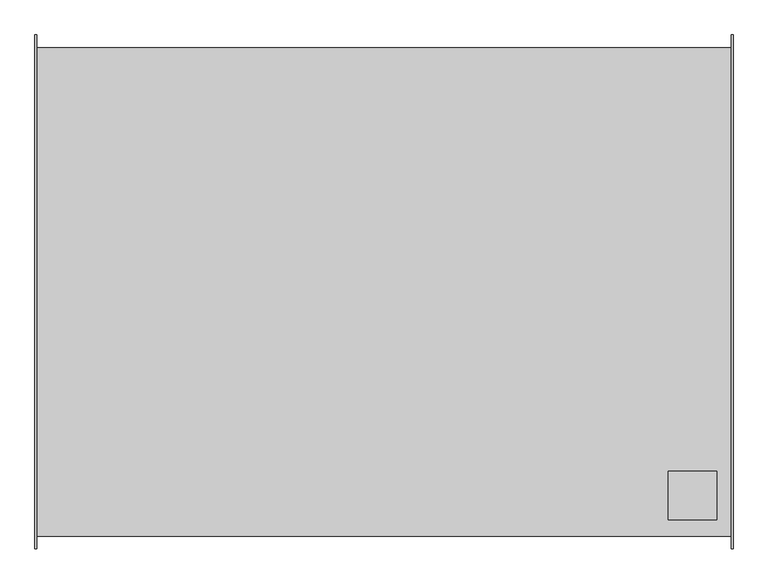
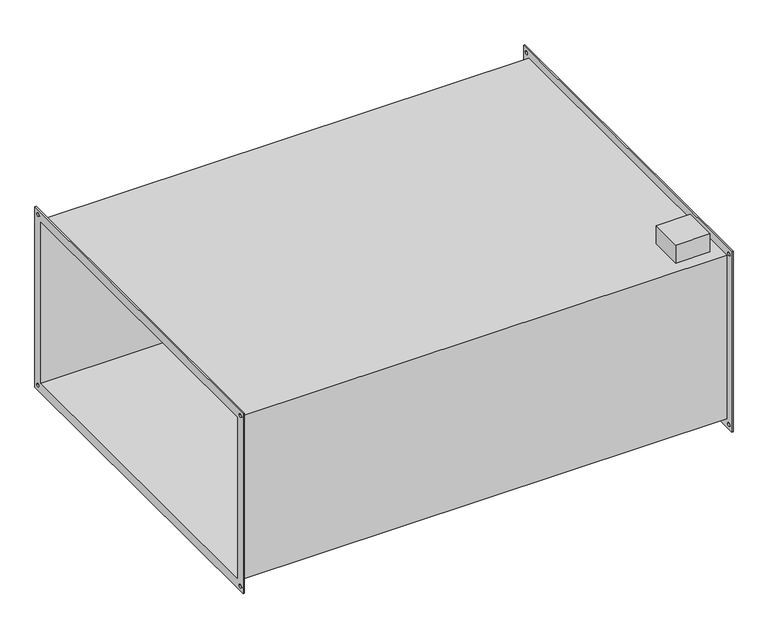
"""IFC4 building model written with IfcOpenShell, lengths in millimetres: proxy geometry."""

from ifc_helpers import new_model, si_unit, frame, origin, place, context, project, spatial, polyline, circle_curve, source, transform, mapped, element, save
from ifc_brep_helpers import plane_surface, revolved_surface, advanced_brep


def mechanical_equipment_2bd975a8(model_context):
    return source(origin(), model_context, "Body", "AdvancedBrep", [
        advanced_brep(
        [(716.0, -504.0, 254.0), (-716.0, -504.0, 254.0), (-716.0, -504.0, -254.0), (716.0, -504.0, -254.0), (-716.0, 504.0, -254.0), (716.0, 504.0, -254.0), (-716.0, 504.0, 254.0), (716.0, 504.0, 254.0), (586.0, -370.0, 254.0), (686.0, -370.0, 254.0), (686.0, -470.0, 254.0), (586.0, -470.0, 254.0), (686.0, -370.0, 310.0), (586.0, -370.0, 310.0), (586.0, -470.0, 310.0), (686.0, -470.0, 310.0), (-720.0, -530.0, 280.0), (-720.0, 530.0, 280.0), (-720.0, 530.0, -280.0), (-720.0, -530.0, -280.0), (-720.0, -500.0, 250.0), (-720.0, -500.0, -250.0), (-720.0, 500.0, -250.0), (-720.0, 500.0, 250.0), (-720.0, -520.0, 265.0), (-720.0, -510.0, 265.0), (-720.0, -520.0, -265.0), (-720.0, -510.0, -265.0), (-720.0, 510.0, -265.0), (-720.0, 520.0, -265.0), (-720.0, 510.0, 265.0), (-720.0, 520.0, 265.0), (-716.0, -530.0, 280.0), (-716.0, -530.0, -280.0), (-716.0, 530.0, -280.0), (-716.0, 530.0, 280.0), (-716.0, -510.0, 265.0), (-716.0, -520.0, 265.0), (-716.0, -510.0, -265.0), (-716.0, -520.0, -265.0), (-716.0, 520.0, -265.0), (-716.0, 510.0, -265.0), (-716.0, 520.0, 265.0), (-716.0, 510.0, 265.0), (716.0, 530.0, 280.0), (716.0, 530.0, -280.0), (716.0, -530.0, -280.0), (716.0, -530.0, 280.0), (716.0, -520.0, 265.0), (716.0, -510.0, 265.0), (716.0, -520.0, -265.0), (716.0, -510.0, -265.0), (716.0, 510.0, -265.0), (716.0, 520.0, -265.0), (716.0, 510.0, 265.0), (716.0, 520.0, 265.0), (720.0, 530.0, 280.0), (720.0, -530.0, 280.0), (720.0, -530.0, -280.0), (720.0, 530.0, -280.0), (720.0, 500.0, 250.0), (720.0, 500.0, -250.0), (720.0, -500.0, -250.0), (720.0, -500.0, 250.0), (720.0, -510.0, 265.0), (720.0, -520.0, 265.0), (720.0, -510.0, -265.0), (720.0, -520.0, -265.0), (720.0, 520.0, -265.0), (720.0, 510.0, -265.0), (720.0, 520.0, 265.0), (720.0, 510.0, 265.0)],
        [
            (0, 1),
            (1, 2),
            (2, 3),
            (3, 0),
            (2, 4),
            (4, 5),
            (5, 3),
            (4, 6),
            (6, 7),
            (7, 5),
            (0, 7),
            (6, 1),
            (8, 9),
            (9, 10),
            (10, 11),
            (11, 8),
            (12, 13),
            (13, 14),
            (14, 15),
            (15, 12),
            (12, 9),
            (8, 13),
            (11, 14),
            (10, 15),
            (16, 17),
            (17, 18),
            (18, 19),
            (19, 16),
            (20, 21),
            (21, 22),
            (22, 23),
            (23, 20),
            (24, 25, circle_curve(frame((-720.0, -515.0, 265.0), z_axis=(1.0, 0.0, 0.0), x_axis=(0.0, 1.0, 0.0)), 5.0)),
            (25, 24, circle_curve(frame((-720.0, -515.0, 265.0), z_axis=(1.0, 0.0, 0.0), x_axis=(0.0, 1.0, 0.0)), 5.0)),
            (26, 27, circle_curve(frame((-720.0, -515.0, -265.0), z_axis=(1.0, 0.0, 0.0), x_axis=(0.0, 1.0, 0.0)), 5.0)),
            (27, 26, circle_curve(frame((-720.0, -515.0, -265.0), z_axis=(1.0, 0.0, 0.0), x_axis=(0.0, 1.0, 0.0)), 5.0)),
            (28, 29, circle_curve(frame((-720.0, 515.0, -265.0), z_axis=(1.0, 0.0, 0.0), x_axis=(0.0, 1.0, 0.0)), 5.0)),
            (29, 28, circle_curve(frame((-720.0, 515.0, -265.0), z_axis=(1.0, 0.0, 0.0), x_axis=(0.0, 1.0, 0.0)), 5.0)),
            (30, 31, circle_curve(frame((-720.0, 515.0, 265.0), z_axis=(1.0, 0.0, 0.0), x_axis=(0.0, 1.0, 0.0)), 5.0)),
            (31, 30, circle_curve(frame((-720.0, 515.0, 265.0), z_axis=(1.0, 0.0, 0.0), x_axis=(0.0, 1.0, 0.0)), 5.0)),
            (32, 33),
            (33, 34),
            (34, 35),
            (35, 32),
            (36, 37, circle_curve(frame((-716.0, -515.0, 265.0), z_axis=(-1.0, 0.0, 0.0), x_axis=(0.0, 1.0, 0.0)), 5.0)),
            (37, 36, circle_curve(frame((-716.0, -515.0, 265.0), z_axis=(-1.0, 0.0, 0.0), x_axis=(0.0, 1.0, 0.0)), 5.0)),
            (38, 39, circle_curve(frame((-716.0, -515.0, -265.0), z_axis=(-1.0, 0.0, 0.0), x_axis=(0.0, 1.0, 0.0)), 5.0)),
            (39, 38, circle_curve(frame((-716.0, -515.0, -265.0), z_axis=(-1.0, 0.0, 0.0), x_axis=(0.0, 1.0, 0.0)), 5.0)),
            (40, 41, circle_curve(frame((-716.0, 515.0, -265.0), z_axis=(-1.0, 0.0, 0.0), x_axis=(0.0, 1.0, 0.0)), 5.0)),
            (41, 40, circle_curve(frame((-716.0, 515.0, -265.0), z_axis=(-1.0, 0.0, 0.0), x_axis=(0.0, 1.0, 0.0)), 5.0)),
            (42, 43, circle_curve(frame((-716.0, 515.0, 265.0), z_axis=(-1.0, 0.0, 0.0), x_axis=(0.0, 1.0, 0.0)), 5.0)),
            (43, 42, circle_curve(frame((-716.0, 515.0, 265.0), z_axis=(-1.0, 0.0, 0.0), x_axis=(0.0, 1.0, 0.0)), 5.0)),
            (19, 33),
            (32, 16),
            (18, 34),
            (17, 35),
            (44, 45),
            (45, 46),
            (46, 47),
            (47, 44),
            (48, 49, circle_curve(frame((716.0, -515.0, 265.0), z_axis=(1.0, 0.0, 0.0), x_axis=(0.0, 1.0, 0.0)), 5.0)),
            (49, 48, circle_curve(frame((716.0, -515.0, 265.0), z_axis=(1.0, 0.0, 0.0), x_axis=(0.0, 1.0, 0.0)), 5.0)),
            (50, 51, circle_curve(frame((716.0, -515.0, -265.0), z_axis=(1.0, 0.0, 0.0), x_axis=(0.0, 1.0, 0.0)), 5.0)),
            (51, 50, circle_curve(frame((716.0, -515.0, -265.0), z_axis=(1.0, 0.0, 0.0), x_axis=(0.0, 1.0, 0.0)), 5.0)),
            (52, 53, circle_curve(frame((716.0, 515.0, -265.0), z_axis=(1.0, 0.0, 0.0), x_axis=(0.0, 1.0, 0.0)), 5.0)),
            (53, 52, circle_curve(frame((716.0, 515.0, -265.0), z_axis=(1.0, 0.0, 0.0), x_axis=(0.0, 1.0, 0.0)), 5.0)),
            (54, 55, circle_curve(frame((716.0, 515.0, 265.0), z_axis=(1.0, 0.0, 0.0), x_axis=(0.0, 1.0, 0.0)), 5.0)),
            (55, 54, circle_curve(frame((716.0, 515.0, 265.0), z_axis=(1.0, 0.0, 0.0), x_axis=(0.0, 1.0, 0.0)), 5.0)),
            (56, 57),
            (57, 58),
            (58, 59),
            (59, 56),
            (60, 61),
            (61, 62),
            (62, 63),
            (63, 60),
            (64, 65, circle_curve(frame((720.0, -515.0, 265.0), z_axis=(-1.0, 0.0, 0.0), x_axis=(0.0, 1.0, 0.0)), 5.0)),
            (65, 64, circle_curve(frame((720.0, -515.0, 265.0), z_axis=(-1.0, 0.0, 0.0), x_axis=(0.0, 1.0, 0.0)), 5.0)),
            (66, 67, circle_curve(frame((720.0, -515.0, -265.0), z_axis=(-1.0, 0.0, 0.0), x_axis=(0.0, 1.0, 0.0)), 5.0)),
            (67, 66, circle_curve(frame((720.0, -515.0, -265.0), z_axis=(-1.0, 0.0, 0.0), x_axis=(0.0, 1.0, 0.0)), 5.0)),
            (68, 69, circle_curve(frame((720.0, 515.0, -265.0), z_axis=(-1.0, 0.0, 0.0), x_axis=(0.0, 1.0, 0.0)), 5.0)),
            (69, 68, circle_curve(frame((720.0, 515.0, -265.0), z_axis=(-1.0, 0.0, 0.0), x_axis=(0.0, 1.0, 0.0)), 5.0)),
            (70, 71, circle_curve(frame((720.0, 515.0, 265.0), z_axis=(-1.0, 0.0, 0.0), x_axis=(0.0, 1.0, 0.0)), 5.0)),
            (71, 70, circle_curve(frame((720.0, 515.0, 265.0), z_axis=(-1.0, 0.0, 0.0), x_axis=(0.0, 1.0, 0.0)), 5.0)),
            (47, 57),
            (56, 44),
            (46, 58),
            (45, 59),
            (23, 60),
            (63, 20),
            (22, 61),
            (21, 62),
            (24, 37),
            (36, 25),
            (48, 65),
            (64, 49),
            (26, 39),
            (38, 27),
            (50, 67),
            (66, 51),
            (28, 41),
            (40, 29),
            (52, 69),
            (68, 53),
            (30, 43),
            (42, 31),
            (54, 71),
            (70, 55),
        ],
        [
            plane_surface(frame((716.0, -504.0, 254.0), z_axis=(0.0, -1.0, 0.0), x_axis=(-1.0, 0.0, 0.0))),
            plane_surface(frame((716.0, -504.0, -254.0), z_axis=(0.0, 0.0, -1.0), x_axis=(-1.0, 0.0, 0.0))),
            plane_surface(frame((716.0, 504.0, -254.0), z_axis=(0.0, 1.0, 0.0), x_axis=(-1.0, 0.0, 0.0))),
            plane_surface(frame((716.0, 504.0, 254.0), z_axis=(0.0, 0.0, 1.0), x_axis=(-1.0, 0.0, 0.0))),
            plane_surface(frame((586.0, -370.0, 310.0), z_axis=(0.0, 0.0, 1.0), x_axis=(-1.0, 0.0, 0.0))),
            plane_surface(frame((686.0, -370.0, 310.0), z_axis=(0.0, 1.0, 0.0), x_axis=(0.0, 0.0, -1.0))),
            plane_surface(frame((586.0, -370.0, 310.0), z_axis=(-1.0, 0.0, 0.0), x_axis=(0.0, 0.0, -1.0))),
            plane_surface(frame((586.0, -470.0, 310.0), z_axis=(0.0, -1.0, 0.0), x_axis=(0.0, 0.0, -1.0))),
            plane_surface(frame((686.0, -470.0, 310.0), z_axis=(1.0, 0.0, 0.0), x_axis=(0.0, 0.0, -1.0))),
            plane_surface(frame((-720.0, -530.0, 280.0), z_axis=(-1.0, 0.0, 0.0), x_axis=(0.0, 0.0, 1.0))),
            plane_surface(frame((-716.0, -530.0, 280.0), z_axis=(1.0, 0.0, 0.0), x_axis=(0.0, 0.0, -1.0))),
            plane_surface(frame((-716.0, -530.0, 280.0), z_axis=(0.0, -1.0, 0.0), x_axis=(-1.0, 0.0, 0.0))),
            plane_surface(frame((-716.0, -530.0, -280.0), z_axis=(0.0, 0.0, -1.0), x_axis=(-1.0, 0.0, 0.0))),
            plane_surface(frame((-716.0, 530.0, -280.0), z_axis=(0.0, 1.0, 0.0), x_axis=(-1.0, 0.0, 0.0))),
            plane_surface(frame((-716.0, 530.0, 280.0), z_axis=(0.0, 0.0, 1.0), x_axis=(-1.0, 0.0, 0.0))),
            plane_surface(frame((716.0, 500.0, -250.0), z_axis=(-1.0, 0.0, 0.0), x_axis=(0.0, 0.0, 1.0))),
            plane_surface(frame((720.0, 500.0, -250.0), z_axis=(1.0, 0.0, 0.0), x_axis=(0.0, 0.0, -1.0))),
            plane_surface(frame((720.0, 530.0, 280.0), z_axis=(0.0, 0.0, 1.0), x_axis=(-1.0, 0.0, 0.0))),
            plane_surface(frame((720.0, -530.0, 280.0), z_axis=(0.0, -1.0, 0.0), x_axis=(-1.0, 0.0, 0.0))),
            plane_surface(frame((720.0, -530.0, -280.0), z_axis=(0.0, 0.0, -1.0), x_axis=(-1.0, 0.0, 0.0))),
            plane_surface(frame((720.0, 530.0, -280.0), z_axis=(0.0, 1.0, 0.0), x_axis=(-1.0, 0.0, 0.0))),
            plane_surface(frame((-716.0, -500.0, 250.0), z_axis=(0.0, 0.0, -1.0), x_axis=(-1.0, 0.0, 0.0))),
            plane_surface(frame((-716.0, 500.0, 250.0), z_axis=(0.0, -1.0, 0.0), x_axis=(-1.0, 0.0, 0.0))),
            plane_surface(frame((-716.0, 500.0, -250.0), z_axis=(0.0, 0.0, 1.0), x_axis=(-1.0, 0.0, 0.0))),
            plane_surface(frame((-716.0, -500.0, -250.0), z_axis=(0.0, 1.0, 0.0), x_axis=(-1.0, 0.0, 0.0))),
            revolved_surface(polyline([(-716.0, -510.0, 265.0), (-720.0, -510.0, 265.0)]), (-720.0, -515.0, 265.0), (1.0, 0.0, 0.0)),
            revolved_surface(polyline([(720.0, -510.0, 265.0), (716.0, -510.0, 265.0)]), (-720.0, -515.0, 265.0), (1.0, 0.0, 0.0)),
            revolved_surface(polyline([(-716.0, -510.0, -265.0), (-720.0, -510.0, -265.0)]), (0.0, -515.0, -265.0), (1.0, 0.0, 0.0)),
            revolved_surface(polyline([(720.0, -510.0, -265.0), (716.0, -510.0, -265.0)]), (0.0, -515.0, -265.0), (1.0, 0.0, 0.0)),
            revolved_surface(polyline([(-716.0, 520.0, -265.0), (-720.0, 520.0, -265.0)]), (0.0, 515.0, -265.0), (1.0, 0.0, 0.0)),
            revolved_surface(polyline([(720.0, 520.0, -265.0), (716.0, 520.0, -265.0)]), (0.0, 515.0, -265.0), (1.0, 0.0, 0.0)),
            revolved_surface(polyline([(-716.0, 520.0, 265.0), (-720.0, 520.0, 265.0)]), (0.0, 515.0, 265.0), (1.0, 0.0, 0.0)),
            revolved_surface(polyline([(720.0, 520.0, 265.0), (716.0, 520.0, 265.0)]), (0.0, 515.0, 265.0), (1.0, 0.0, 0.0)),
        ],
        [
            (0, [[1, 2, 3, 4]]),
            (1, [[-3, 5, 6, 7]]),
            (2, [[-6, 8, 9, 10]]),
            (3, [[-1, 11, -9, 12], [13, 14, 15, 16]]),
            (4, [[17, 18, 19, 20]]),
            (5, [[-17, 21, -13, 22]]),
            (6, [[-18, -22, -16, 23]]),
            (7, [[-19, -23, -15, 24]]),
            (8, [[-20, -24, -14, -21]]),
            (9, [[25, 26, 27, 28], [29, 30, 31, 32], [33, 34], [35, 36], [37, 38], [39, 40]]),
            (10, [[41, 42, 43, 44], [-2, -12, -8, -5], [45, 46], [47, 48], [49, 50], [51, 52]]),
            (11, [[-28, 53, -41, 54]]),
            (12, [[-27, 55, -42, -53]]),
            (13, [[-26, 56, -43, -55]]),
            (14, [[-25, -54, -44, -56]]),
            (15, [[57, 58, 59, 60], [-4, -7, -10, -11], [61, 62], [63, 64], [65, 66], [67, 68]]),
            (16, [[69, 70, 71, 72], [73, 74, 75, 76], [77, 78], [79, 80], [81, 82], [83, 84]]),
            (17, [[-60, 85, -69, 86]]),
            (18, [[-59, 87, -70, -85]]),
            (19, [[-58, 88, -71, -87]]),
            (20, [[-57, -86, -72, -88]]),
            (21, [[-32, 89, -76, 90]]),
            (22, [[-31, 91, -73, -89]]),
            (23, [[-30, 92, -74, -91]]),
            (24, [[-29, -90, -75, -92]]),
            (25, [[93, -45, 94, -33]]),
            (26, [[95, -77, 96, -61]]),
            (25, [[-93, -34, -94, -46]]),
            (26, [[-95, -62, -96, -78]]),
            (27, [[97, -47, 98, -35]]),
            (28, [[99, -79, 100, -63]]),
            (27, [[-97, -36, -98, -48]]),
            (28, [[-99, -64, -100, -80]]),
            (29, [[101, -49, 102, -37]]),
            (30, [[103, -81, 104, -65]]),
            (29, [[-101, -38, -102, -50]]),
            (30, [[-103, -66, -104, -82]]),
            (31, [[105, -51, 106, -39]]),
            (32, [[107, -83, 108, -67]]),
            (31, [[-105, -40, -106, -52]]),
            (32, [[-107, -68, -108, -84]]),
        ],
    ),
    ])


if __name__ == "__main__":
    model = new_model("IFC4")
    model_context = context("Model", 3, world=origin())
    ifc_project = project(units=[si_unit("LENGTHUNIT", "METRE", prefix="MILLI")], contexts=[model_context])
    site = spatial("IfcSite", under=ifc_project)
    building = spatial("IfcBuilding", under=site)
    placement = place(None, origin())
    mechanical_equipment_shape = mechanical_equipment_2bd975a8(model_context)
    element("IfcBuildingElementProxy", 1, Name="Mechanical Equipment", at=placement, inside=building, context=model_context, shape_type="MappedRepresentation", body=[
        mapped(mechanical_equipment_shape, transform((0.0, 0.0, 0.0), x_axis=(1.0, 0.0, 0.0), y_axis=(0.0, 1.0, 0.0), z_axis=(0.0, 0.0, 1.0))),
    ])
    save(model, "model.ifc")
